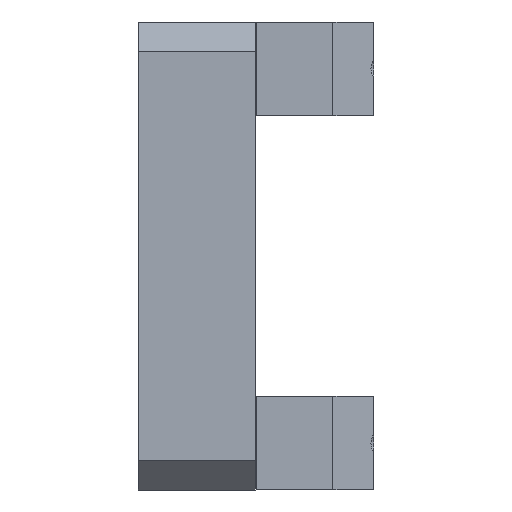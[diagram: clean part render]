
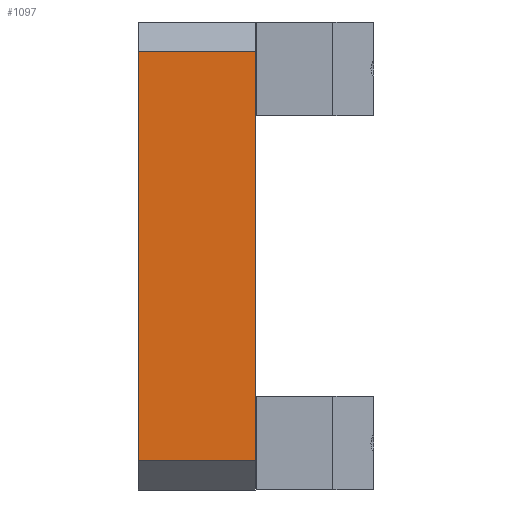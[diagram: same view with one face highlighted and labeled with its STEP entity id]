
A CAD part, left-side view. The second image highlights one B-rep face of the part: STEP entity #1097.
In plain terms, the highlighted planar face has unit normal (-1, 0, 0).
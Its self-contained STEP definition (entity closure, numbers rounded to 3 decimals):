
#309 = VECTOR ( 'NONE', #2065, 1000. ) ;
#322 = LINE ( 'NONE', #2059, #309 ) ;
#358 = LINE ( 'NONE', #580, #366 ) ;
#363 = VECTOR ( 'NONE', #2077, 1000. ) ;
#366 = VECTOR ( 'NONE', #2076, 1000. ) ;
#368 = LINE ( 'NONE', #2084, #363 ) ;
#408 = EDGE_CURVE ( 'NONE', #743, #792, #368, .T. ) ;
#409 = EDGE_CURVE ( 'NONE', #758, #792, #358, .T. ) ;
#413 = EDGE_CURVE ( 'NONE', #777, #758, #322, .T. ) ;
#443 = EDGE_CURVE ( 'NONE', #777, #743, #1660, .T. ) ;
#580 = CARTESIAN_POINT ( 'NONE',  ( 0., 0., 0. ) ) ;
#743 = VERTEX_POINT ( 'NONE', #1905 ) ;
#758 = VERTEX_POINT ( 'NONE', #2222 ) ;
#777 = VERTEX_POINT ( 'NONE', #2241 ) ;
#792 = VERTEX_POINT ( 'NONE', #2256 ) ;
#1097 = ADVANCED_FACE ( 'NONE', ( #1149 ), #1742, .F. ) ;
#1149 = FACE_OUTER_BOUND ( 'NONE', #2210, .T. ) ;
#1461 = AXIS2_PLACEMENT_3D ( 'NONE', #1738, #1744, #1745 ) ;
#1658 = VECTOR ( 'NONE', #1813, 1000. ) ;
#1660 = LINE ( 'NONE', #1814, #1658 ) ;
#1738 = CARTESIAN_POINT ( 'NONE',  ( 0., 20., 0. ) ) ;
#1742 = PLANE ( 'NONE',  #1461 ) ;
#1744 = DIRECTION ( 'NONE',  ( 1., 0., 0. ) ) ;
#1745 = DIRECTION ( 'NONE',  ( 0., 0., -1. ) ) ;
#1813 = DIRECTION ( 'NONE',  ( 0., 0., 1. ) ) ;
#1814 = CARTESIAN_POINT ( 'NONE',  ( 0., 20., 0. ) ) ;
#1905 = CARTESIAN_POINT ( 'NONE',  ( 0., 20., 35. ) ) ;
#2059 = CARTESIAN_POINT ( 'NONE',  ( 0., 20., -35. ) ) ;
#2065 = DIRECTION ( 'NONE',  ( 0., -1., 0. ) ) ;
#2076 = DIRECTION ( 'NONE',  ( 0., 0., 1. ) ) ;
#2077 = DIRECTION ( 'NONE',  ( 0., -1., 0. ) ) ;
#2084 = CARTESIAN_POINT ( 'NONE',  ( 0., 20., 35. ) ) ;
#2140 = ORIENTED_EDGE ( 'NONE', *, *, #409, .T. ) ;
#2141 = ORIENTED_EDGE ( 'NONE', *, *, #408, .F. ) ;
#2144 = ORIENTED_EDGE ( 'NONE', *, *, #443, .F. ) ;
#2145 = ORIENTED_EDGE ( 'NONE', *, *, #413, .T. ) ;
#2210 = EDGE_LOOP ( 'NONE', ( #2144, #2145, #2140, #2141 ) ) ;
#2222 = CARTESIAN_POINT ( 'NONE',  ( 0., 0., -35. ) ) ;
#2241 = CARTESIAN_POINT ( 'NONE',  ( 0., 20., -35. ) ) ;
#2256 = CARTESIAN_POINT ( 'NONE',  ( 0., 0., 35. ) ) ;
